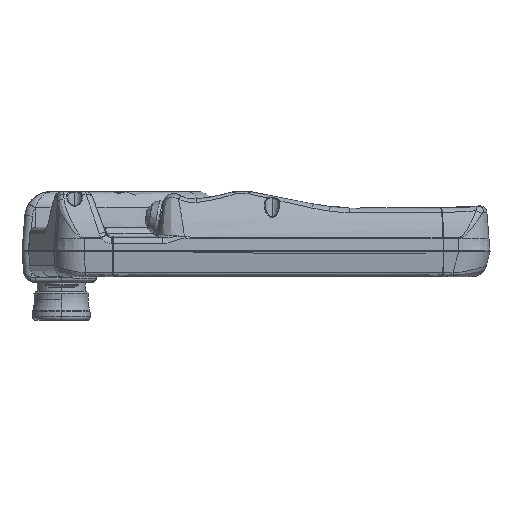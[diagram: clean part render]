
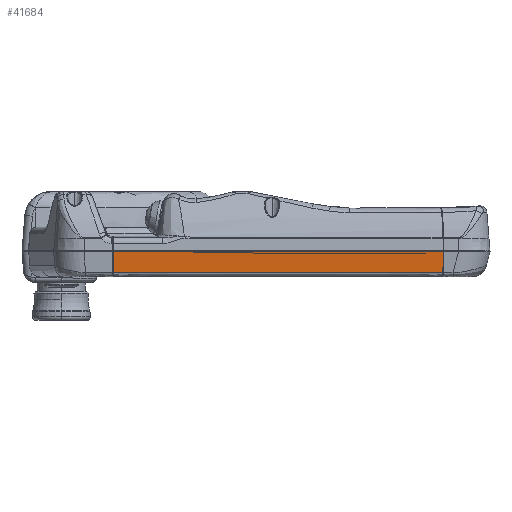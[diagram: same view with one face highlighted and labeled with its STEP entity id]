
A CAD part, left-side view. The second image highlights one B-rep face of the part: STEP entity #41684.
In plain terms, the highlighted planar face has unit normal (-0.997, 0, -0.079).
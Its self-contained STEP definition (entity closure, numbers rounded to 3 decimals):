
#1031 = ORIENTED_EDGE ( 'NONE', *, *, #75420, .T. ) ;
#3565 = EDGE_CURVE ( 'NONE', #75236, #84315, #4671, .T. ) ;
#4671 = B_SPLINE_CURVE_WITH_KNOTS ( 'NONE', 3,
 ( #128732, #37703, #128051, #77114 ),
 .UNSPECIFIED., .F., .F.,
 ( 4, 4 ),
 ( 0., 1. ),
 .UNSPECIFIED. ) ;
#6519 = CARTESIAN_POINT ( 'NONE',  ( 921.124, 1156.902, 1123.334 ) ) ;
#10423 = EDGE_LOOP ( 'NONE', ( #58211, #19311, #54869, #56863, #108333, #1031 ) ) ;
#11208 = B_SPLINE_CURVE_WITH_KNOTS ( 'NONE', 3,
 ( #39601, #40280, #132654, #81027 ),
 .UNSPECIFIED., .F., .F.,
 ( 4, 4 ),
 ( 0., 1. ),
 .UNSPECIFIED. ) ;
#13633 = CARTESIAN_POINT ( 'NONE',  ( 921.654, 1156.901, 1116.595 ) ) ;
#15156 = VECTOR ( 'NONE', #49318, 1000. ) ;
#18861 = CARTESIAN_POINT ( 'NONE',  ( 920.859, 957.439, 1126.704 ) ) ;
#19311 = ORIENTED_EDGE ( 'NONE', *, *, #48304, .T. ) ;
#20519 = AXIS2_PLACEMENT_3D ( 'NONE', #18861, #120755, #130949 ) ;
#25267 = CARTESIAN_POINT ( 'NONE',  ( 921.713, 1156.886, 1115.89 ) ) ;
#28875 = CARTESIAN_POINT ( 'NONE',  ( 921.654, 1156.901, 1116.595 ) ) ;
#30717 = CARTESIAN_POINT ( 'NONE',  ( 921.713, 986.395, 1115.89 ) ) ;
#31150 = CARTESIAN_POINT ( 'NONE',  ( 921.125, 986.379, 1123.323 ) ) ;
#31512 = VERTEX_POINT ( 'NONE', #50777 ) ;
#31940 = EDGE_CURVE ( 'NONE', #88615, #129261, #11208, .T. ) ;
#37703 = CARTESIAN_POINT ( 'NONE',  ( 921.673, 1156.896, 1116.36 ) ) ;
#39579 = CARTESIAN_POINT ( 'NONE',  ( 921.71, 1043.225, 1115.89 ) ) ;
#39601 = CARTESIAN_POINT ( 'NONE',  ( 921.657, 986.38, 1116.562 ) ) ;
#40280 = CARTESIAN_POINT ( 'NONE',  ( 921.675, 986.385, 1116.338 ) ) ;
#41684 = ADVANCED_FACE ( 'NONE', ( #87478 ), #100362, .T. ) ;
#48304 = EDGE_CURVE ( 'NONE', #31512, #75236, #102805, .T. ) ;
#48588 = CARTESIAN_POINT ( 'NONE',  ( 920.859, 1156.903, 1126.704 ) ) ;
#49318 = DIRECTION ( 'NONE',  ( 0., -1., 0. ) ) ;
#49779 = B_SPLINE_CURVE_WITH_KNOTS ( 'NONE', 3,
 ( #73468, #51760, #39579, #30717 ),
 .UNSPECIFIED., .F., .F.,
 ( 4, 4 ),
 ( 0., 1. ),
 .UNSPECIFIED. ) ;
#50777 = CARTESIAN_POINT ( 'NONE',  ( 920.859, 1156.903, 1126.704 ) ) ;
#51760 = CARTESIAN_POINT ( 'NONE',  ( 921.71, 1100.056, 1115.89 ) ) ;
#54263 = VERTEX_POINT ( 'NONE', #72694 ) ;
#54747 = CARTESIAN_POINT ( 'NONE',  ( 921.657, 986.38, 1116.562 ) ) ;
#54869 = ORIENTED_EDGE ( 'NONE', *, *, #3565, .T. ) ;
#56863 = ORIENTED_EDGE ( 'NONE', *, *, #104745, .T. ) ;
#58211 = ORIENTED_EDGE ( 'NONE', *, *, #123039, .F. ) ;
#61701 = CARTESIAN_POINT ( 'NONE',  ( 921.391, 986.38, 1119.943 ) ) ;
#72694 = CARTESIAN_POINT ( 'NONE',  ( 920.859, 986.379, 1126.704 ) ) ;
#73468 = CARTESIAN_POINT ( 'NONE',  ( 921.713, 1156.886, 1115.89 ) ) ;
#75236 = VERTEX_POINT ( 'NONE', #13633 ) ;
#75420 = EDGE_CURVE ( 'NONE', #88615, #54263, #107284, .T. ) ;
#77114 = CARTESIAN_POINT ( 'NONE',  ( 921.713, 1156.886, 1115.89 ) ) ;
#81027 = CARTESIAN_POINT ( 'NONE',  ( 921.713, 986.395, 1115.89 ) ) ;
#82090 = CARTESIAN_POINT ( 'NONE',  ( 921.657, 986.38, 1116.562 ) ) ;
#84315 = VERTEX_POINT ( 'NONE', #25267 ) ;
#87478 = FACE_OUTER_BOUND ( 'NONE', #10423, .T. ) ;
#88615 = VERTEX_POINT ( 'NONE', #54747 ) ;
#91553 = CARTESIAN_POINT ( 'NONE',  ( 921.713, 986.395, 1115.89 ) ) ;
#100362 = PLANE ( 'NONE',  #20519 ) ;
#102261 = LINE ( 'NONE', #111780, #15156 ) ;
#102805 = B_SPLINE_CURVE_WITH_KNOTS ( 'NONE', 3,
 ( #48588, #6519, #132117, #28875 ),
 .UNSPECIFIED., .F., .F.,
 ( 4, 4 ),
 ( 0., 1. ),
 .UNSPECIFIED. ) ;
#104745 = EDGE_CURVE ( 'NONE', #84315, #129261, #49779, .T. ) ;
#107284 = B_SPLINE_CURVE_WITH_KNOTS ( 'NONE', 3,
 ( #82090, #61701, #31150, #122870 ),
 .UNSPECIFIED., .F., .F.,
 ( 4, 4 ),
 ( 0., 1. ),
 .UNSPECIFIED. ) ;
#108333 = ORIENTED_EDGE ( 'NONE', *, *, #31940, .F. ) ;
#111780 = CARTESIAN_POINT ( 'NONE',  ( 920.859, 1156.903, 1126.704 ) ) ;
#120755 = DIRECTION ( 'NONE',  ( -0.997, 0., -0.078 ) ) ;
#122870 = CARTESIAN_POINT ( 'NONE',  ( 920.859, 986.379, 1126.704 ) ) ;
#123039 = EDGE_CURVE ( 'NONE', #31512, #54263, #102261, .T. ) ;
#128051 = CARTESIAN_POINT ( 'NONE',  ( 921.691, 1156.891, 1116.125 ) ) ;
#128732 = CARTESIAN_POINT ( 'NONE',  ( 921.654, 1156.901, 1116.595 ) ) ;
#129261 = VERTEX_POINT ( 'NONE', #91553 ) ;
#130949 = DIRECTION ( 'NONE',  ( 0., -1., 0. ) ) ;
#132117 = CARTESIAN_POINT ( 'NONE',  ( 921.389, 1156.902, 1119.965 ) ) ;
#132654 = CARTESIAN_POINT ( 'NONE',  ( 921.693, 986.392, 1116.114 ) ) ;
